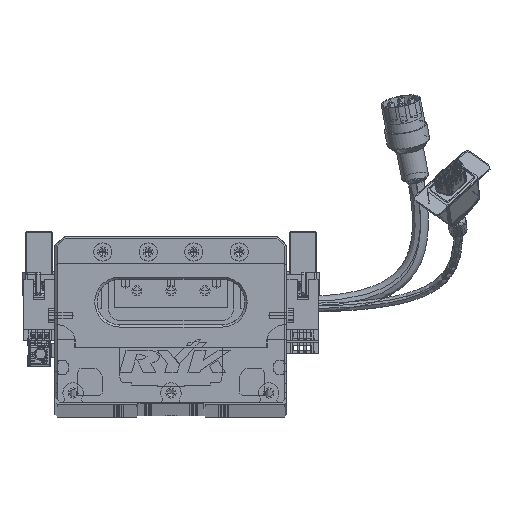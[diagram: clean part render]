
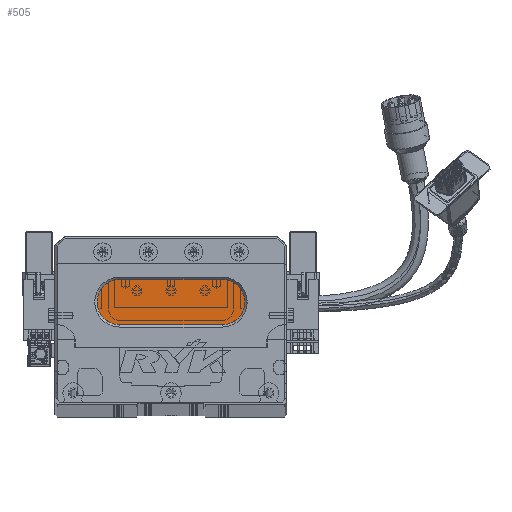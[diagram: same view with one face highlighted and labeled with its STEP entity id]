
A CAD part, top view. The second image highlights one B-rep face of the part: STEP entity #505.
In plain terms, the highlighted planar face has unit normal (0, 0, 1) as drawn and (0, 0, -1) by its records, which use the part's own axes.
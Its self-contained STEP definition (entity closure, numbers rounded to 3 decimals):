
#364 = CIRCLE ( 'NONE', #73897, 10. ) ;
#505 = ADVANCED_FACE ( 'NONE', ( #20302 ), #44292, .T. ) ;
#3317 = VERTEX_POINT ( 'NONE', #69280 ) ;
#7777 = AXIS2_PLACEMENT_3D ( 'NONE', #26817, #19886, #48059 ) ;
#14320 = CARTESIAN_POINT ( 'NONE',  ( 73.5, 54., 13. ) ) ;
#14863 = DIRECTION ( 'NONE',  ( 0., 0., -1. ) ) ;
#15547 = DIRECTION ( 'NONE',  ( -1., 0., 0. ) ) ;
#16175 = ORIENTED_EDGE ( 'NONE', *, *, #92784, .T. ) ;
#19886 = DIRECTION ( 'NONE',  ( 0., 0., -1. ) ) ;
#20302 = FACE_OUTER_BOUND ( 'NONE', #90202, .T. ) ;
#20432 = VERTEX_POINT ( 'NONE', #63305 ) ;
#22660 = VERTEX_POINT ( 'NONE', #68511 ) ;
#23007 = CARTESIAN_POINT ( 'NONE',  ( 73.5, 44., 13. ) ) ;
#26817 = CARTESIAN_POINT ( 'NONE',  ( 28.5, 44., 13. ) ) ;
#28975 = LINE ( 'NONE', #45312, #87301 ) ;
#31902 = EDGE_CURVE ( 'NONE', #3317, #20432, #77478, .T. ) ;
#33773 = CARTESIAN_POINT ( 'NONE',  ( 28.5, 44., 13. ) ) ;
#35357 = LINE ( 'NONE', #65640, #79031 ) ;
#37962 = CIRCLE ( 'NONE', #44993, 10. ) ;
#38557 = DIRECTION ( 'NONE',  ( -1., 0., 0. ) ) ;
#44292 = PLANE ( 'NONE',  #82305 ) ;
#44993 = AXIS2_PLACEMENT_3D ( 'NONE', #52950, #55445, #38557 ) ;
#45312 = CARTESIAN_POINT ( 'NONE',  ( 73.5, 54., 13. ) ) ;
#48059 = DIRECTION ( 'NONE',  ( -1., 0., 0. ) ) ;
#52207 = DIRECTION ( 'NONE',  ( 1., 0., 0. ) ) ;
#52950 = CARTESIAN_POINT ( 'NONE',  ( 73.5, 44., 13. ) ) ;
#53954 = EDGE_CURVE ( 'NONE', #92541, #22660, #37962, .T. ) ;
#55445 = DIRECTION ( 'NONE',  ( 0., 0., -1. ) ) ;
#56315 = ORIENTED_EDGE ( 'NONE', *, *, #69854, .T. ) ;
#58566 = VERTEX_POINT ( 'NONE', #68498 ) ;
#59084 = ORIENTED_EDGE ( 'NONE', *, *, #80037, .T. ) ;
#60568 = DIRECTION ( 'NONE',  ( -1., 0., 0. ) ) ;
#63305 = CARTESIAN_POINT ( 'NONE',  ( 28.5, 54., 13. ) ) ;
#65640 = CARTESIAN_POINT ( 'NONE',  ( 73.5, 34., 13. ) ) ;
#68498 = CARTESIAN_POINT ( 'NONE',  ( 28.5, 34., 13. ) ) ;
#68511 = CARTESIAN_POINT ( 'NONE',  ( 73.5, 34., 13. ) ) ;
#69280 = CARTESIAN_POINT ( 'NONE',  ( 18.5, 44., 13. ) ) ;
#69854 = EDGE_CURVE ( 'NONE', #20432, #92541, #28975, .T. ) ;
#72284 = ORIENTED_EDGE ( 'NONE', *, *, #53954, .T. ) ;
#73897 = AXIS2_PLACEMENT_3D ( 'NONE', #33773, #83903, #91129 ) ;
#77478 = CIRCLE ( 'NONE', #7777, 10. ) ;
#77765 = ORIENTED_EDGE ( 'NONE', *, *, #31902, .T. ) ;
#79031 = VECTOR ( 'NONE', #15547, 1000. ) ;
#80037 = EDGE_CURVE ( 'NONE', #58566, #3317, #364, .T. ) ;
#82305 = AXIS2_PLACEMENT_3D ( 'NONE', #23007, #14863, #60568 ) ;
#83903 = DIRECTION ( 'NONE',  ( 0., 0., -1. ) ) ;
#87301 = VECTOR ( 'NONE', #52207, 1000. ) ;
#90202 = EDGE_LOOP ( 'NONE', ( #72284, #16175, #59084, #77765, #56315 ) ) ;
#91129 = DIRECTION ( 'NONE',  ( -1., 0., 0. ) ) ;
#92541 = VERTEX_POINT ( 'NONE', #14320 ) ;
#92784 = EDGE_CURVE ( 'NONE', #22660, #58566, #35357, .T. ) ;
